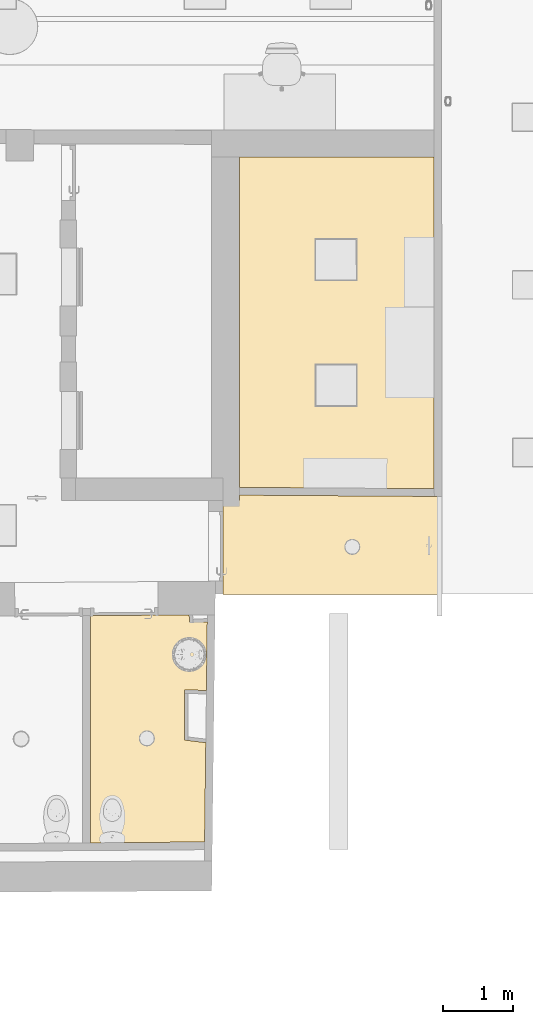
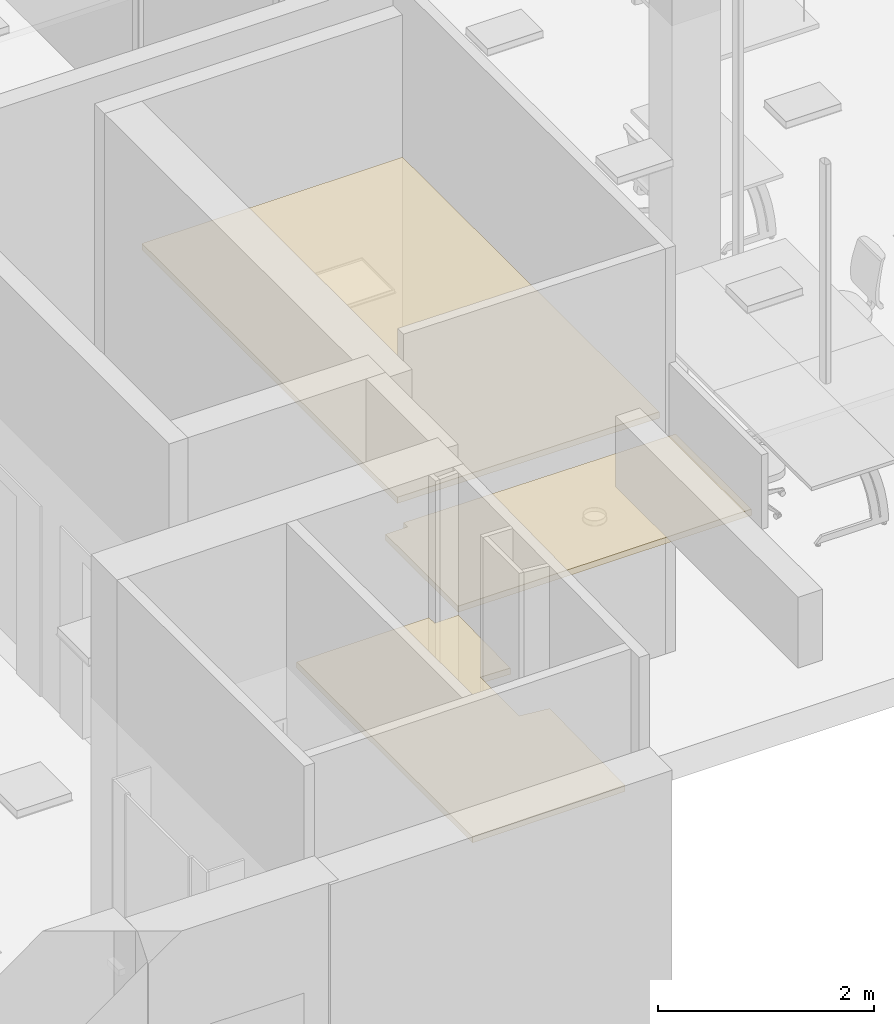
# One storey, part 61 of 128: 3 coverings.
"""IFC2X3 building model written with IfcOpenShell, lengths in metres."""

from ifc_helpers import new_model, entity, si_unit, converted_unit, derived_unit, direction, frame, origin, place, context, subcontext, project, spatial, faceted_brep, material, layer, layer_set, layer_usage, type_object, element, save


model = new_model("IFC2X3")

# Units and contexts
model_context = context("Model", 3, precision=1e-05, world=origin(), true_north=direction((6.123031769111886e-17, 1.0)))
body_context = subcontext(model_context, "Body", "Model", "MODEL_VIEW")
ifc_project = project(units=[si_unit("LENGTHUNIT", "METRE"), si_unit("AREAUNIT", "SQUARE_METRE"), converted_unit("PLANEANGLEUNIT", "DEGREE", entity("IfcPlaneAngleMeasure", 0.017453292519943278), si_unit("PLANEANGLEUNIT", "RADIAN"), dimensions=[0, 0, 0, 0, 0, 0, 0]), derived_unit("THERMALTRANSMITTANCEUNIT", [(si_unit("MASSUNIT", "GRAM", prefix="KILO"), 1), (si_unit("THERMODYNAMICTEMPERATUREUNIT", "KELVIN"), -1), (si_unit("TIMEUNIT", "SECOND"), -3)])], contexts=[model_context])

# Site, building, storey
site_placement = place(None, origin())
site = spatial("IfcSite", under=ifc_project, at=site_placement, Name="Default", CompositionType="ELEMENT")
building_placement = place(site_placement, origin())
building = spatial("IfcBuilding", under=site, at=building_placement, CompositionType="ELEMENT")
storey_placement = place(building_placement, origin())
storey = spatial("IfcBuildingStorey", under=building, at=storey_placement, Name="00_RDC CAF", CompositionType="ELEMENT", Elevation=2.4982504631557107e-13)

# Coverings
ifc_material_1 = material(Name="ARC - FP - Blanc")
ifc_layer_1 = layer(ifc_material_1, 0.02)
ifc_material_2 = material(Name="ARC - FP - Trame 600 x 600")
ifc_layer_2 = layer(ifc_material_2, 0.05)
ifc_layer_set = layer_set([ifc_layer_1, ifc_layer_2], Name="Plafond composé:FP_Dalle-600X600_70mm")
ifc_layer_usage_1 = layer_usage(ifc_layer_set, "AXIS3", "NEGATIVE", 0.07)
covering_type = type_object("IfcCoveringType", Name="Plafond composé:FP_Dalle-600X600_70mm", PredefinedType="CEILING")
covering_1_placement = place(storey_placement, frame((30.893265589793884, 131.72573882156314, 2.5999999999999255)))
element("IfcCovering", 1, at=covering_1_placement, inside=storey, type_object=covering_type, material=ifc_layer_usage_1, Name="Plafond composé:FP_Dalle-600X600_70mm", ObjectType="Plafond composé:FP_Dalle-600X600_70mm", PredefinedType="CEILING", context=body_context, shape_type="Brep", body=[
    faceted_brep([(2.7849900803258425, 4.74704624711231, 0.07000000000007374), (0.0, 4.74704624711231, 0.07000000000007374), (0.0, 0.01871019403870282, 0.07000000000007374), (2.788214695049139, 0.0, 0.07000000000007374), (0.0, 4.74704624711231, 0.0), (2.7849900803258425, 4.74704624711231, 0.0), (2.788214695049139, 0.0, 0.0), (0.0, 0.01871019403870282, 0.0), (1.0916931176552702, 2.991122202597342, 0.0), (1.6716929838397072, 2.991516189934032, 0.0), (1.6712989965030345, 3.571516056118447, 0.0), (1.0912991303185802, 3.571122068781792, 0.0), (1.0929158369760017, 1.191122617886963, 0.0), (1.6729157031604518, 1.191516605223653, 0.0), (1.6725217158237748, 1.7715164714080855, 0.0), (1.092521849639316, 1.7711224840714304, 0.0), (1.6716929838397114, 2.9915161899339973, 0.029999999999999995), (1.0916931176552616, 2.9911222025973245, 0.029999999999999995), (1.0912991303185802, 3.5711220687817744, 0.029999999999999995), (1.6712989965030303, 3.571516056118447, 0.029999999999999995), (1.6729157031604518, 1.1915166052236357, 0.029999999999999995), (1.0929158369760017, 1.191122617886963, 0.029999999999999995), (1.0925218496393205, 1.771122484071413, 0.029999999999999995), (1.6725217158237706, 1.7715164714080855, 0.029999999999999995)], [[[0, 1, 2, 3]], [[4, 5, 6, 7], [8, 9, 10, 11], [12, 13, 14, 15]], [[1, 0, 5, 4]], [[2, 1, 4, 7]], [[3, 2, 7, 6]], [[0, 3, 6, 5]], [[16, 17, 18, 19]], [[17, 16, 9, 8]], [[18, 17, 8, 11]], [[19, 18, 11, 10]], [[16, 19, 10, 9]], [[20, 21, 22, 23]], [[21, 20, 13, 12]], [[22, 21, 12, 15]], [[23, 22, 15, 14]], [[20, 23, 14, 13]]]),
])
ifc_layer_usage_2 = layer_usage(ifc_layer_set, "AXIS3", "NEGATIVE", 0.07)
covering_2_placement = place(storey_placement, frame((30.658265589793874, 130.21421114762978, 2.3799999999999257)))
element("IfcCovering", 2, at=covering_2_placement, inside=storey, type_object=covering_type, material=ifc_layer_usage_2, Name="Plafond composé:FP_Dalle-600X600_70mm", ObjectType="Plafond composé:FP_Dalle-600X600_70mm", PredefinedType="CEILING", context=body_context, shape_type="Brep", body=[
    faceted_brep([(0.0, 0.0, 0.07000000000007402), (3.0642414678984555, 0.0, 0.07000000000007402), (3.1342414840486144, 0.0, 0.07000000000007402), (3.1332899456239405, 1.4007865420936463, 0.07000000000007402), (3.063289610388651, 1.401256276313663, 0.07000000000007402), (0.23500000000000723, 1.4202353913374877, 0.07000000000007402), (0.23500000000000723, 1.3413102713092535, 0.07000000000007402), (0.0, 1.3413102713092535, 0.07000000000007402), (3.1342414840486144, 0.0, 0.0), (1.945230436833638, 0.6232718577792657, 0.0), (1.9562194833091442, 0.6498017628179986, 0.0), (1.9277493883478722, 0.6004901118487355, 0.0), (1.9599676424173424, 0.6782718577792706, 0.0), (1.9049676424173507, 0.5830090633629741, 0.0), (1.8784377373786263, 0.5720200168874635, 0.0), (1.8499676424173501, 0.5682718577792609, 0.0), (0.0, 0.0, 0.0), (3.1332899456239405, 1.4007865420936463, 0.0), (1.8214975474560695, 0.5720200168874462, 0.0), (1.7949676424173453, 0.5830090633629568, 0.0), (1.7721858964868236, 0.6004901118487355, 0.0), (1.7547048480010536, 0.6232718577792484, 0.0), (1.7437158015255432, 0.6498017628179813, 0.0), (1.7399676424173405, 0.6782718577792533, 0.0), (0.23500000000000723, 1.3413102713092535, 0.0), (0.0, 1.3413102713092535, 0.0), (1.7437158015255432, 0.7067419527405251, 0.0), (1.7547048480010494, 0.7332718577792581, 0.0), (1.7721858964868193, 0.756053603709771, 0.0), (0.23500000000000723, 1.4202353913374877, 0.0), (1.8499676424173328, 0.7882718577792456, 0.0), (1.7949676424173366, 0.7735346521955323, 0.0), (1.8214975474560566, 0.7845236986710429, 0.0), (1.878437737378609, 0.7845236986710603, 0.0), (1.9562194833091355, 0.7067419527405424, 0.0), (1.9452304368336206, 0.7332718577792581, 0.0), (1.9277493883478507, 0.7560536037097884, 0.0), (1.904967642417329, 0.7735346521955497, 0.0), (3.1342414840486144, 0.0, 0.049999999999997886), (1.904967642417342, 0.5830090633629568, 0.04999999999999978), (1.878437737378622, 0.5720200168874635, 0.04999999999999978), (1.8499676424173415, 0.5682718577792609, 0.04999999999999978), (1.8214975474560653, 0.5720200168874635, 0.04999999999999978), (1.794967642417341, 0.5830090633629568, 0.04999999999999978), (1.7721858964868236, 0.6004901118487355, 0.04999999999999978), (1.7547048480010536, 0.6232718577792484, 0.04999999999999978), (1.7437158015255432, 0.6498017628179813, 0.04999999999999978), (1.7399676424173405, 0.6782718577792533, 0.04999999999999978), (1.7437158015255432, 0.7067419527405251, 0.04999999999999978), (1.7547048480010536, 0.7332718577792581, 0.04999999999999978), (1.7721858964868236, 0.756053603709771, 0.04999999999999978), (1.794967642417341, 0.7735346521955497, 0.04999999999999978), (1.8214975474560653, 0.7845236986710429, 0.04999999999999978), (1.8499676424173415, 0.7882718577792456, 0.04999999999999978), (1.8784377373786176, 0.7845236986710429, 0.04999999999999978), (1.904967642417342, 0.7735346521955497, 0.04999999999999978), (1.9277493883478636, 0.756053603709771, 0.04999999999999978), (1.9452304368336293, 0.7332718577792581, 0.04999999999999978), (1.9562194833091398, 0.7067419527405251, 0.04999999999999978), (1.9599676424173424, 0.6782718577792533, 0.04999999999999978), (1.9562194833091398, 0.6498017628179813, 0.04999999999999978), (1.9452304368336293, 0.6232718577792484, 0.04999999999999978), (1.9277493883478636, 0.6004901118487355, 0.04999999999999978)], [[[0, 1, 2, 3, 4, 5, 6, 7]], [[8, 9, 10]], [[9, 8, 11]], [[8, 10, 12]], [[13, 11, 8]], [[14, 13, 8]], [[15, 14, 8]], [[8, 16, 15]], [[12, 17, 8]], [[18, 15, 16]], [[19, 18, 16]], [[20, 19, 16]], [[16, 21, 20]], [[21, 16, 22]], [[23, 22, 16]], [[16, 24, 23]], [[16, 25, 24]], [[26, 23, 24]], [[24, 27, 26]], [[28, 27, 24]], [[24, 29, 28]], [[17, 30, 29]], [[28, 29, 31]], [[32, 31, 29]], [[32, 29, 30]], [[33, 30, 17]], [[12, 34, 17]], [[35, 17, 34]], [[17, 35, 36]], [[36, 37, 17]], [[37, 33, 17]], [[1, 0, 16, 8, 38, 2]], [[3, 2, 38, 8, 17]], [[4, 3, 17, 29, 5]], [[6, 5, 29, 24]], [[7, 6, 24, 25]], [[0, 7, 25, 16]], [[39, 40, 41, 42, 43, 44, 45, 46, 47, 48, 49, 50, 51, 52, 53, 54, 55, 56, 57, 58, 59, 60, 61, 62]], [[47, 23, 26, 48]], [[48, 26, 27, 49]], [[51, 50, 28, 31]], [[28, 50, 49, 27]], [[52, 51, 31, 32]], [[52, 32, 30, 53]], [[53, 30, 33, 54]], [[54, 33, 37, 55]], [[36, 56, 55, 37]], [[35, 57, 56, 36]], [[12, 59, 58, 34]], [[35, 34, 58, 57]], [[59, 12, 10, 60]], [[60, 10, 9, 61]], [[39, 62, 11, 13]], [[11, 62, 61, 9]], [[40, 39, 13, 14]], [[40, 14, 15, 41]], [[18, 42, 41, 15]], [[46, 45, 21, 22]], [[44, 20, 21, 45]], [[46, 22, 23, 47]], [[19, 43, 42, 18]], [[19, 20, 44, 43]]]),
])
ifc_layer_usage_3 = layer_usage(ifc_layer_set, "AXIS3", "NEGATIVE", 0.07)
covering_3_placement = place(storey_placement, frame((28.757724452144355, 126.6555085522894, 2.5999999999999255)))
element("IfcCovering", 3, at=covering_3_placement, inside=storey, type_object=covering_type, material=ifc_layer_usage_3, Name="Plafond composé:FP_Dalle-600X600_70mm", ObjectType="Plafond composé:FP_Dalle-600X600_70mm", PredefinedType="CEILING", context=body_context, shape_type="Brep", body=[
    faceted_brep([(1.6743216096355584, 3.161205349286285, 0.07000000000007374), (1.4222253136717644, 3.161205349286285, 0.07000000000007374), (1.4143973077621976, 3.2632927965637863, 0.07000000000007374), (0.0, 3.2535958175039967, 0.07000000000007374), (0.0, 0.0, 0.07000000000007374), (1.6359293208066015, 0.01242862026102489, 0.07000000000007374), (1.6532711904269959, 1.434737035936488, 0.07000000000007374), (1.34804161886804, 1.4722145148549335, 0.07000000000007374), (1.34804161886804, 2.1914885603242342, 0.07000000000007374), (1.6623642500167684, 2.180512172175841, 0.07000000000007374), (0.0, 3.2535958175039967, 0.0), (0.7317270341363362, 1.5737561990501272, 0.0), (0.7142459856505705, 1.5509744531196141, 0.0), (0.7545087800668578, 1.5912372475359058, 0.0), (0.7032569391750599, 1.5244445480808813, 0.0), (0.6995087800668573, 1.4959744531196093, 0.0), (0.7810386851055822, 1.602226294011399, 0.0), (1.34804161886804, 2.1914885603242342, 0.0), (0.0, 0.0, 0.0), (1.4222253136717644, 3.161205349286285, 0.0), (1.4143973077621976, 3.2632927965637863, 0.0), (1.6623642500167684, 2.180512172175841, 0.0), (1.6743216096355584, 3.161205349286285, 0.0), (0.8095087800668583, 1.6059744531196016, 0.0), (0.8379788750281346, 1.602226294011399, 0.0), (0.8645087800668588, 1.5912372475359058, 0.0), (0.8872905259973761, 1.5737561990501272, 0.0), (1.34804161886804, 1.4722145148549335, 0.0), (0.9047715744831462, 1.5509744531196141, 0.0), (0.9157606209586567, 1.5244445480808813, 0.0), (0.9195087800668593, 1.4959744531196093, 0.0), (0.9157606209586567, 1.4675043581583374, 0.0), (0.9047715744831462, 1.4409744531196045, 0.0), (0.8872905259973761, 1.4181927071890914, 0.0), (0.8645087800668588, 1.4007116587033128, 0.0), (1.6359293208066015, 0.01242862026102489, 0.0), (1.6532711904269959, 1.434737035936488, 0.0), (0.8095087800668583, 1.385974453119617, 0.0), (0.8379788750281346, 1.3897226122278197, 0.0), (0.7032569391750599, 1.4675043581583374, 0.0), (0.7142459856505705, 1.4409744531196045, 0.0), (0.7317270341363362, 1.4181927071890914, 0.0), (0.7545087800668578, 1.4007116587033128, 0.0), (0.7810386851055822, 1.3897226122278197, 0.0), (0.8645087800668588, 1.4007116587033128, 0.04999999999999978), (0.837978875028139, 1.3897226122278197, 0.04999999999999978), (0.8095087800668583, 1.385974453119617, 0.04999999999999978), (0.7810386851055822, 1.3897226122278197, 0.04999999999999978), (0.7545087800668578, 1.4007116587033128, 0.04999999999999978), (0.7317270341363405, 1.4181927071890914, 0.04999999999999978), (0.7142459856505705, 1.4409744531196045, 0.04999999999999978), (0.7032569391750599, 1.4675043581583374, 0.04999999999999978), (0.6995087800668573, 1.4959744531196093, 0.04999999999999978), (0.7032569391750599, 1.5244445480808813, 0.04999999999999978), (0.7142459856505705, 1.5509744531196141, 0.04999999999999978), (0.7317270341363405, 1.5737561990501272, 0.04999999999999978), (0.7545087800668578, 1.5912372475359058, 0.04999999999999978), (0.7810386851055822, 1.602226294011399, 0.04999999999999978), (0.8095087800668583, 1.6059744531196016, 0.04999999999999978), (0.8379788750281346, 1.602226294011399, 0.04999999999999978), (0.8645087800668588, 1.5912372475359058, 0.04999999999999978), (0.8872905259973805, 1.5737561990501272, 0.04999999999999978), (0.9047715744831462, 1.5509744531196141, 0.04999999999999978), (0.9157606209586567, 1.5244445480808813, 0.04999999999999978), (0.9195087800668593, 1.4959744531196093, 0.04999999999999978), (0.9157606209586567, 1.4675043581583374, 0.04999999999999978), (0.9047715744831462, 1.4409744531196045, 0.04999999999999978), (0.8872905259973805, 1.4181927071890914, 0.04999999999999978)], [[[0, 1, 2, 3, 4, 5, 6, 7, 8, 9]], [[10, 11, 12]], [[11, 10, 13]], [[12, 14, 10]], [[10, 14, 15]], [[16, 13, 10]], [[17, 16, 10]], [[15, 18, 10]], [[17, 10, 19]], [[10, 20, 19]], [[19, 21, 17]], [[22, 21, 19]], [[17, 23, 16]], [[24, 23, 17]], [[25, 24, 17]], [[25, 17, 26]], [[27, 26, 17]], [[27, 28, 26]], [[29, 28, 27]], [[30, 29, 27]], [[27, 31, 30]], [[32, 31, 27]], [[32, 27, 33]], [[34, 33, 27]], [[35, 34, 27]], [[27, 36, 35]], [[18, 37, 35]], [[35, 37, 38]], [[34, 35, 38]], [[15, 39, 18]], [[40, 18, 39]], [[18, 40, 41]], [[41, 42, 18]], [[42, 43, 18]], [[43, 37, 18]], [[3, 2, 20, 10]], [[4, 3, 10, 18]], [[5, 4, 18, 35]], [[6, 5, 35, 36]], [[0, 9, 21, 22]], [[7, 6, 36, 27]], [[8, 7, 27, 17]], [[9, 8, 17, 21]], [[1, 0, 22, 19]], [[2, 1, 19, 20]], [[44, 45, 46, 47, 48, 49, 50, 51, 52, 53, 54, 55, 56, 57, 58, 59, 60, 61, 62, 63, 64, 65, 66, 67]], [[52, 15, 14, 53]], [[53, 14, 12, 54]], [[56, 55, 11, 13]], [[11, 55, 54, 12]], [[57, 56, 13, 16]], [[57, 16, 23, 58]], [[58, 23, 24, 59]], [[59, 24, 25, 60]], [[26, 61, 60, 25]], [[28, 62, 61, 26]], [[30, 64, 63, 29]], [[28, 29, 63, 62]], [[64, 30, 31, 65]], [[65, 31, 32, 66]], [[44, 67, 33, 34]], [[33, 67, 66, 32]], [[45, 44, 34, 38]], [[45, 38, 37, 46]], [[43, 47, 46, 37]], [[51, 50, 40, 39]], [[49, 41, 40, 50]], [[51, 39, 15, 52]], [[42, 48, 47, 43]], [[42, 41, 49, 48]]]),
])

save(model, "model.ifc")
